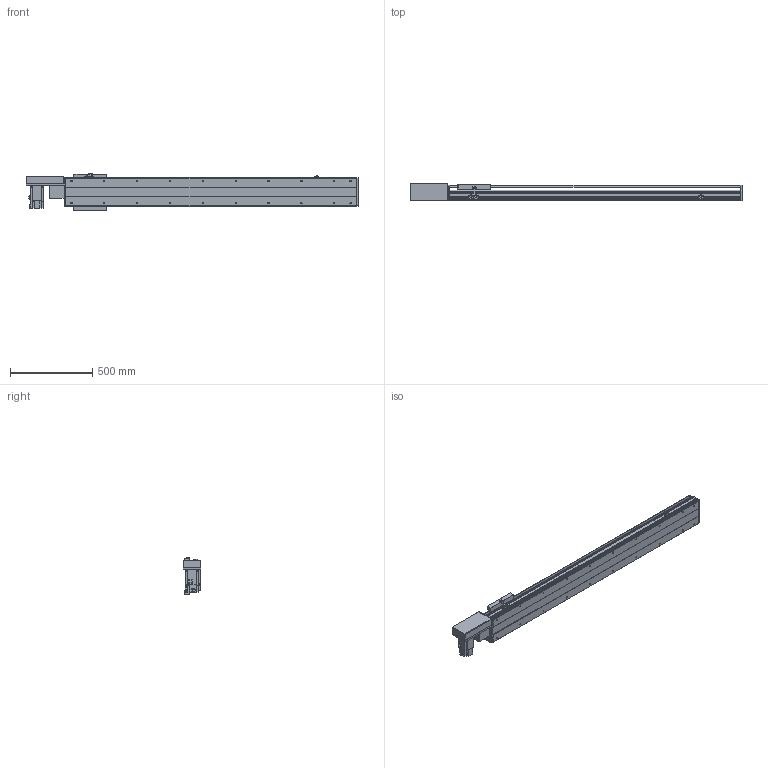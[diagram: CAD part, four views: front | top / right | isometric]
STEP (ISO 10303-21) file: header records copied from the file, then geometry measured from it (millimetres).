
FILE_DESCRIPTION(/* description */ ('STEP AP214'),/* implementation_level */ '2;1');
FILE_NAME(/* name */ 'PBS200-P40-S1400-R-T75-C1-N(0)',/* time_stamp */ '2022-06-11T08:06:14+02:00',/* author */ ('License CC BY-ND 4.0'),/* organization */ ('CADENAS'),/* preprocessor_version */ 'ST-DEVELOPER v18.102',/* originating_system */ 'PARTsolutions',/* authorisation */ ' ');
FILE_SCHEMA (('AUTOMOTIVE_DESIGN {1 0 10303 214 3 1 1}'));
Length unit declared in the file: millimetre
Products named in the file (7): PBS200-P40-S1400-R-T75-C1-N(0); PBS200_sensor; PBS200_plant; PBS200_sliser; T75-p1; PBS200T-R_motors; PBS200-S1400()_body
Assembly tree (8 placements, depth 2):
  PBS200-P40-S1400-R-T75-C1-N(0)
    PBS200_sensor  x3
    PBS200_plant
    PBS200_sliser
    T75-p1
    PBS200T-R_motors
    PBS200-S1400()_body
Bounding box: 2022 x 109 x 221 mm (x, y, z)
Volume: 13734912.3 mm3; surface area: 2213444.9 mm2
Topology: 8 solids, 8 shells, 932 faces, 2394 edges, 1560 vertices
Faces by surface type: plane 578, cylinder 302, cone 52
Full cylindrical faces by diameter (mm): 2.459 x6, 3.242 x4, 4.5 x6, 4.917 x4, 5 x6, 6 x7, 6.6 x8, 6.647 x24, 8 x6, 10 x4, 12 x8, 38 x2, 40 x1, 70 x1
Entity records: 24821 total; most frequent: DIRECTION 4375, CARTESIAN_POINT 4228, ORIENTED_EDGE 4006, EDGE_CURVE 2003, AXIS2_PLACEMENT_3D 1531, VERTEX_POINT 1384, LINE 1313, VECTOR 1313
